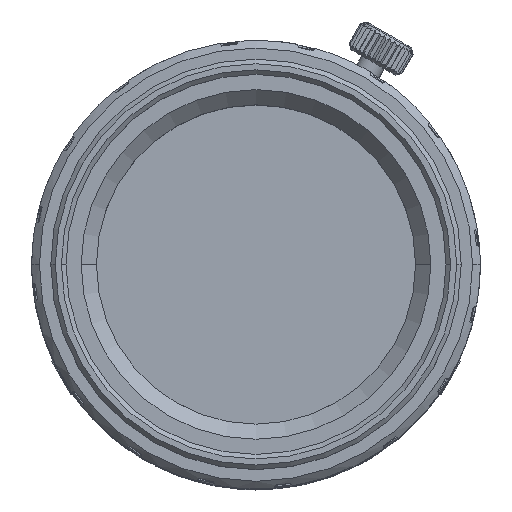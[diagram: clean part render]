
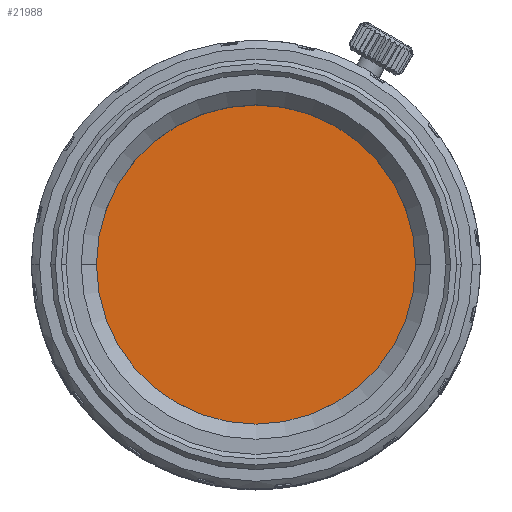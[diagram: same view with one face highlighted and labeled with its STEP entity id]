
A CAD part, top view. The second image highlights one B-rep face of the part: STEP entity #21988.
In plain terms, the highlighted planar face has unit normal (0, 0, 1).
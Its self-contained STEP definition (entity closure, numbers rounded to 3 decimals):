
#1218 = AXIS2_PLACEMENT_3D ( 'NONE', #12939, #29761, #15423 ) ;
#2347 = DIRECTION ( 'NONE',  ( 0., 0., 1. ) ) ;
#3013 = VERTEX_POINT ( 'NONE', #9086 ) ;
#3614 = ORIENTED_EDGE ( 'NONE', *, *, #25571, .T. ) ;
#3768 = AXIS2_PLACEMENT_3D ( 'NONE', #25934, #11388, #28314 ) ;
#4260 = CIRCLE ( 'NONE', #1218, 10.6 ) ;
#9086 = CARTESIAN_POINT ( 'NONE',  ( 10.6, 0., 61.201 ) ) ;
#11290 = ORIENTED_EDGE ( 'NONE', *, *, #25983, .T. ) ;
#11330 = CIRCLE ( 'NONE', #29566, 10.6 ) ;
#11388 = DIRECTION ( 'NONE',  ( 0., 0., 1. ) ) ;
#12042 = VERTEX_POINT ( 'NONE', #25740 ) ;
#12939 = CARTESIAN_POINT ( 'NONE',  ( 0., 0., 61.201 ) ) ;
#15423 = DIRECTION ( 'NONE',  ( 1., 0., 0. ) ) ;
#17075 = EDGE_LOOP ( 'NONE', ( #11290, #3614 ) ) ;
#17322 = CARTESIAN_POINT ( 'NONE',  ( 0., 0., 61.201 ) ) ;
#19739 = DIRECTION ( 'NONE',  ( 1., 0., 0. ) ) ;
#21988 = ADVANCED_FACE ( 'NONE', ( #29687 ), #30578, .T. ) ;
#25571 = EDGE_CURVE ( 'NONE', #12042, #3013, #4260, .T. ) ;
#25740 = CARTESIAN_POINT ( 'NONE',  ( -10.6, 0., 61.201 ) ) ;
#25934 = CARTESIAN_POINT ( 'NONE',  ( 0., 0., 61.201 ) ) ;
#25983 = EDGE_CURVE ( 'NONE', #3013, #12042, #11330, .T. ) ;
#28314 = DIRECTION ( 'NONE',  ( 1., 0., 0. ) ) ;
#29566 = AXIS2_PLACEMENT_3D ( 'NONE', #17322, #2347, #19739 ) ;
#29687 = FACE_OUTER_BOUND ( 'NONE', #17075, .T. ) ;
#29761 = DIRECTION ( 'NONE',  ( 0., 0., 1. ) ) ;
#30578 = PLANE ( 'NONE',  #3768 ) ;
